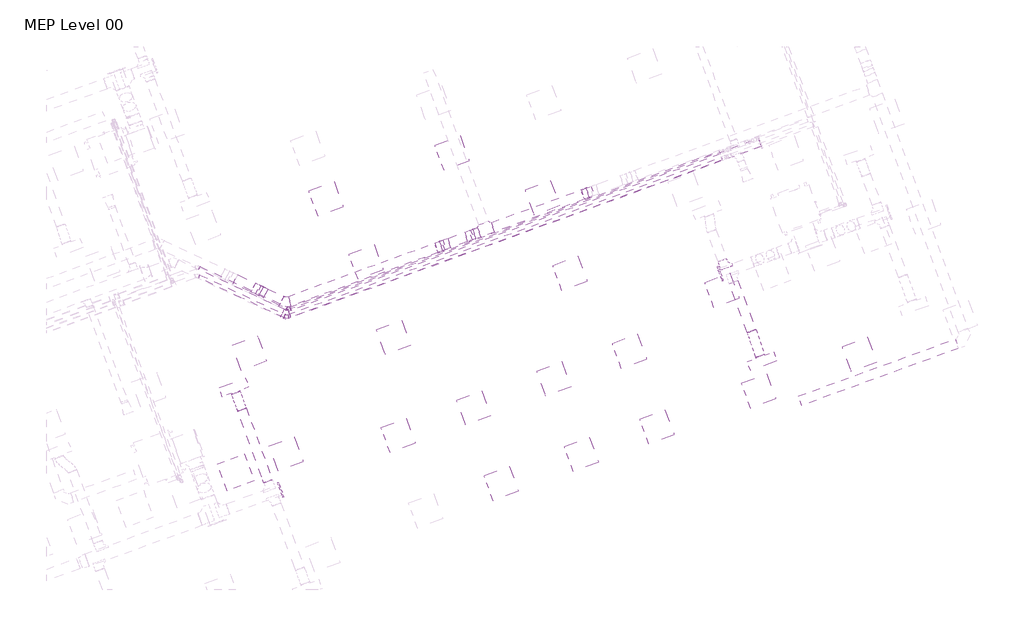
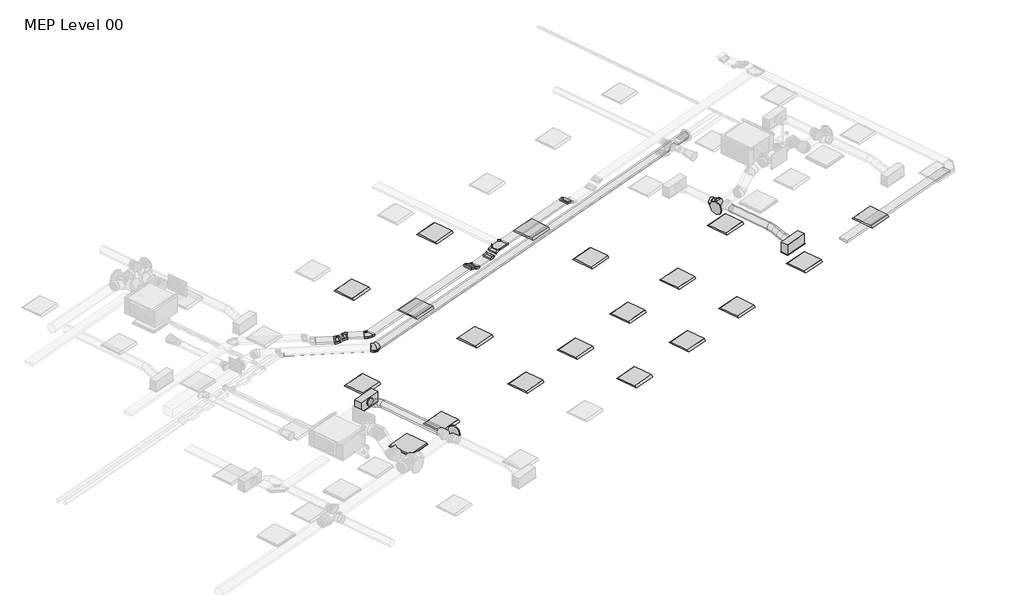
# One storey, part 27 of 33: 18 light fixtures, 10 cable carrier segments, 9 cable carrier fittings, 5 duct segments, 4 duct fittings, 4 pipe segments, 3 air terminals, 2 pipe fittings.
"""IFC4 building model written with IfcOpenShell, lengths in millimetres."""

from ifc_helpers import new_model, si_unit, point, frame, frame_2d, origin, place, context, project, spatial, polyline, circle_curve, ellipse_curve, trimmed, segment, composite_curve, outline, extrude, transform, mapped, element, save
from ifc_brep_helpers import plane_surface, cylinder_surface, advanced_brep
from components import return_grille_rectangular_hosted_standard_7b12617c, supply_diffuser_with_plenum_linear_slot_hosted_8c379eed, supply_diffuser_with_plenum_linear_slot_hosted_8e4f2f20, cable_tray_horizontal_bend_standard_ea848225, cable_tray_horizontal_tee_standard_d76b5e15, cable_tray_vertical_inside_bend_standard_9a66f55b, cable_tray_vertical_outside_bend_standard_4df2047e, dw144_round_blank_end_standard_e3d0b58b, dw144_round_blank_end_standard_9aa061e7, dw144_round_segmented_bend_slip_joint_standard_e64af1a0, dw144_round_shoe_branch_slip_joint_standard_559552f4, light_fixture_600x600_230_1c7c1157, light_fixture_600x600_230_b730b5ca, elbow_threaded_gmi_standard_79e06f2a

model = new_model("IFC4")

# Units and contexts
model_context = context("Model", 3, world=origin())
ifc_project = project(units=[si_unit("LENGTHUNIT", "METRE", prefix="MILLI")], contexts=[model_context])

# Site, building, storey
site = spatial("IfcSite", under=ifc_project)
building = spatial("IfcBuilding", under=site)
storey = spatial("IfcBuildingStorey", under=building, Name="MEP Level 00", Elevation=0.0)

# Air terminals
placement = place(None, origin())
return_grille_rectangular_hosted_standard_shape = return_grille_rectangular_hosted_standard_7b12617c(model_context)
element("IfcAirTerminal", 1, ObjectType="Return Grille - Rectangular - Hosted : Standard", at=placement, inside=storey, context=model_context, shape_type="MappedRepresentation", body=[
    mapped(return_grille_rectangular_hosted_standard_shape, transform((48062.9940494, 9235.5167351, 2800.0), x_axis=(0.939692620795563, 0.34202014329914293, 0.0), y_axis=(0.34202014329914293, -0.939692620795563, 0.0), z_axis=(0.0, 0.0, -1.0))),
])
supply_diffuser_with_plenum_linear_slot_hosted_shape = supply_diffuser_with_plenum_linear_slot_hosted_8c379eed(model_context)
element("IfcAirTerminal", 2, ObjectType="Supply Diffuser with Plenum - Linear Slot - Hosted : 600mmx193.8mm-200 In Inlet  4-Slot", at=placement, inside=storey, context=model_context, shape_type="MappedRepresentation", body=[
    mapped(supply_diffuser_with_plenum_linear_slot_hosted_shape, transform((59838.6553495, 11720.0135943, 2800.0), x_axis=(0.9396926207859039, 0.342020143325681, 0.0), y_axis=(0.342020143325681, -0.9396926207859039, 0.0), z_axis=(0.0, 0.0, -1.0))),
])
supply_diffuser_with_plenum_linear_slot_hosted_2_shape = supply_diffuser_with_plenum_linear_slot_hosted_8e4f2f20(model_context)
element("IfcAirTerminal", 3, ObjectType="Supply Diffuser with Plenum - Linear Slot - Hosted : 600mmx193.8mm-200 In Inlet  4-Slot", at=placement, inside=storey, context=model_context, shape_type="MappedRepresentation", body=[
    mapped(supply_diffuser_with_plenum_linear_slot_hosted_2_shape, transform((48022.1677671, 11136.1771739, 2800.0), x_axis=(0.939692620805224, 0.34202014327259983, 0.0), y_axis=(0.34202014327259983, -0.939692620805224, 0.0), z_axis=(0.0, 0.0, -1.0))),
])

# Cable carrier fittings
cable_tray_horizontal_bend_standard_shape = cable_tray_horizontal_bend_standard_ea848225(model_context)
element("IfcCableCarrierFitting", 4, ObjectType="Cable Tray Horizontal Bend : Standard", at=placement, inside=storey, context=model_context, shape_type="MappedRepresentation", body=[
    mapped(cable_tray_horizontal_bend_standard_shape, transform((49178.5883036, 13033.9843438, 3248.9627355), x_axis=(0.9063077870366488, -0.422618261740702, 0.0), y_axis=(0.422618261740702, 0.9063077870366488, 0.0), z_axis=(0.0, 0.0, 1.0))),
])
cable_tray_horizontal_tee_standard_shape = cable_tray_horizontal_tee_standard_d76b5e15(model_context)
element("IfcCableCarrierFitting", 5, ObjectType="Cable Tray Horizontal Tee : Standard", at=placement, inside=storey, context=model_context, shape_type="MappedRepresentation", body=[
    mapped(cable_tray_horizontal_tee_standard_shape, transform((53662.1916852, 14665.8825169, 3248.9627355), x_axis=(-0.9396926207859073, -0.3420201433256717, 0.0), y_axis=(0.3420201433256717, -0.9396926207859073, 0.0), z_axis=(0.0, 0.0, 1.0))),
])
cable_tray_vertical_inside_bend_standard_shape = cable_tray_vertical_inside_bend_standard_9a66f55b(model_context)
element("IfcCableCarrierFitting", 6, ObjectType="Cable Tray Vertical Inside Bend : Standard", at=placement, inside=storey, context=model_context, shape_type="MappedRepresentation", body=[
    mapped(cable_tray_vertical_inside_bend_standard_shape, transform((52776.5170732, 14343.5233209, 3148.9627355), x_axis=(-0.9396926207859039, -0.3420201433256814, 0.0), y_axis=(0.0, 0.0, 1.0000000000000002), z_axis=(-0.3420201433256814, 0.9396926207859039, 0.0))),
])
element("IfcCableCarrierFitting", 7, ObjectType="Cable Tray Vertical Inside Bend : Standard", at=placement, inside=storey, context=model_context, shape_type="MappedRepresentation", body=[
    mapped(cable_tray_vertical_inside_bend_standard_shape, transform((53283.7846283, 14528.1536118, 3148.9627355), x_axis=(-0.8137976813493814, -0.29619813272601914, -0.4999999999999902), y_axis=(-0.4698463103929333, -0.17101007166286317, 0.8660254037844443), z_axis=(-0.3420201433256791, 0.9396926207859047, 0.0))),
])
element("IfcCableCarrierFitting", 8, ObjectType="Cable Tray Vertical Inside Bend : Standard", at=placement, inside=storey, context=model_context, shape_type="MappedRepresentation", body=[
    mapped(cable_tray_vertical_inside_bend_standard_shape, transform((48516.9257607, 13342.5226547, 3148.9627355), x_axis=(0.9063077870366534, -0.42261826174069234, 0.0), y_axis=(0.0, 0.0, 1.0000000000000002), z_axis=(-0.42261826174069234, -0.9063077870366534, 0.0))),
])
cable_tray_vertical_outside_bend_standard_shape = cable_tray_vertical_outside_bend_standard_4df2047e(model_context)
element("IfcCableCarrierFitting", 9, ObjectType="Cable Tray Vertical Outside Bend : Standard", at=placement, inside=storey, context=model_context, shape_type="MappedRepresentation", body=[
    mapped(cable_tray_vertical_outside_bend_standard_shape, transform((55890.4383468, 15476.8979763, 3248.9627355), x_axis=(0.9396926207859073, 0.3420201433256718, 0.0), y_axis=(0.0, 0.0, -1.0000000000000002), z_axis=(-0.3420201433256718, 0.9396926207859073, 0.0))),
])
element("IfcCableCarrierFitting", 10, ObjectType="Cable Tray Vertical Outside Bend : Standard", at=placement, inside=storey, context=model_context, shape_type="MappedRepresentation", body=[
    mapped(cable_tray_vertical_outside_bend_standard_shape, transform((52613.757537, 14284.2836944, 3248.9627355), x_axis=(0.9396926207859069, 0.34202014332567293, 0.0), y_axis=(0.0, 0.0, -1.0), z_axis=(-0.34202014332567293, 0.9396926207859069, 0.0))),
])
element("IfcCableCarrierFitting", 11, ObjectType="Cable Tray Vertical Outside Bend : Standard", at=placement, inside=storey, context=model_context, shape_type="MappedRepresentation", body=[
    mapped(cable_tray_vertical_outside_bend_standard_shape, transform((53446.5441646, 14587.3932383, 3248.9627355), x_axis=(0.8137976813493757, 0.29619813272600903, 0.5000000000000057), y_axis=(0.4698463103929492, 0.17101007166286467, -0.8660254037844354), z_axis=(-0.34202014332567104, 0.9396926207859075, 0.0))),
])
element("IfcCableCarrierFitting", 12, ObjectType="Cable Tray Vertical Outside Bend : Standard", at=placement, inside=storey, context=model_context, shape_type="MappedRepresentation", body=[
    mapped(cable_tray_vertical_outside_bend_standard_shape, transform((48673.9028741, 13269.3230245, 3248.9627355), x_axis=(-0.9063077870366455, 0.42261826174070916, 0.0), y_axis=(0.0, 0.0, -1.0), z_axis=(-0.42261826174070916, -0.9063077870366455, 0.0))),
])

# Cable carrier segments
element("IfcCableCarrierSegment", 13, ObjectType="Perforated Cable Tray", at=placement, inside=storey, context=model_context, shape_type="SweptSolid", body=[
    extrude(outline(polyline([(53853.3690022, 14615.7453704), (53776.4144699, 14827.17621), (55789.0136109, 15559.7023909), (55865.9681432, 15348.2715512), (53853.3690022, 14615.7453704)])), frame((0.0, 0.0, 3223.9627355), z_axis=(0.0, 0.0, 1.0), x_axis=(1.0, 0.0, 0.0)), (0.0, 0.0, 1.0), 50.0),
])
element("IfcCableCarrierSegment", 14, ObjectType="Perforated Cable Tray", at=placement, inside=storey, context=model_context, shape_type="SweptSolid", body=[
    extrude(outline(polyline([(0.0, -225.0), (0.0, 0.0), (113.9508747, 0.0), (113.9508747, -225.0), (0.0, -225.0)])), frame((55894.7290307, 15598.179657, 3193.8184513), z_axis=(0.4698463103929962, 0.1710100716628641, 0.8660254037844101), x_axis=(0.8137976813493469, 0.29619813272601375, -0.5000000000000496)), (0.0, 0.0, 1.0), 50.0),
])
element("IfcCableCarrierSegment", 15, ObjectType="Perforated Cable Tray", at=placement, inside=storey, context=model_context, shape_type="SweptSolid", body=[
    extrude(outline(polyline([(48687.0694296, 13139.053343), (48782.1585385, 13342.9725951), (49136.974176, 13177.519346), (49041.8850671, 12973.600094), (48687.0694296, 13139.053343)])), frame((0.0, 0.0, 3223.9627355), z_axis=(0.0, 0.0, 1.0), x_axis=(1.0, 0.0, 0.0)), (0.0, 0.0, 1.0), 50.0),
])
element("IfcCableCarrierSegment", 16, ObjectType="Perforated Cable Tray", at=placement, inside=storey, context=model_context, shape_type="SweptSolid", body=[
    extrude(outline(polyline([(48010.1156409, 13454.7220789), (48105.2047498, 13658.6413309), (48503.7592052, 13472.7923362), (48408.6700963, 13268.8730841), (48010.1156409, 13454.7220789)])), frame((0.0, 0.0, 3123.9627355), z_axis=(0.0, 0.0, 1.0), x_axis=(1.0, 0.0, 0.0)), (0.0, 0.0, 1.0), 50.0),
])
element("IfcCableCarrierSegment", 17, ObjectType="Perforated Cable Tray", at=placement, inside=storey, context=model_context, shape_type="SweptSolid", body=[
    extrude(outline(polyline([(0.0, -225.0), (0.0, 0.0), (66.0254038, 0.0), (66.0254038, -225.0), (0.0, -225.0)])), frame((48585.1098035, 13186.5978974, 3193.8184513), z_axis=(-0.4531538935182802, 0.21130913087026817, 0.8660254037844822), x_axis=(-0.7848855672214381, 0.3659981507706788, -0.49999999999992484)), (0.0, 0.0, 1.0), 50.0),
])
element("IfcCableCarrierSegment", 18, ObjectType="Perforated Cable Tray", at=placement, inside=storey, context=model_context, shape_type="SweptSolid", body=[
    extrude(outline(polyline([(64157.7578179, 12218.7489992), (64234.7123502, 12007.3181595), (60729.218143, 10731.4226117), (60652.2636108, 10942.8534514), (64157.7578179, 12218.7489992)])), frame((0.0, 0.0, 3223.9627355), z_axis=(0.0, 0.0, 1.0), x_axis=(1.0, 0.0, 0.0)), (0.0, 0.0, 1.0), 50.0),
])
element("IfcCableCarrierSegment", 19, ObjectType="Perforated Cable Tray", at=placement, inside=storey, context=model_context, shape_type="SweptSolid", body=[
    extrude(outline(polyline([(49309.5085089, 12961.9154021), (49232.5539766, 13173.3462418), (52512.3328011, 14367.0881089), (52589.2873334, 14155.6572692), (49309.5085089, 12961.9154021)])), frame((0.0, 0.0, 3223.9627355), z_axis=(0.0, 0.0, 1.0), x_axis=(1.0, 0.0, 0.0)), (0.0, 0.0, 1.0), 50.0),
])
element("IfcCableCarrierSegment", 20, ObjectType="Perforated Cable Tray", at=placement, inside=storey, context=model_context, shape_type="SweptSolid", body=[
    extrude(outline(polyline([(1e-07, -224.9999999), (0.0, 0.0), (66.0254039, 0.0), (66.0254038, -225.0), (1e-07, -224.9999999)])), frame((52618.0482209, 14405.565375, 3193.8184513), z_axis=(0.46984631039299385, 0.17101007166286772, 0.8660254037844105), x_axis=(0.8137976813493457, 0.2961981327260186, -0.5000000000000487)), (0.0, 0.0, 1.0), 50.0),
])
element("IfcCableCarrierSegment", 21, ObjectType="Perforated Cable Tray", at=placement, inside=storey, context=model_context, shape_type="SweptSolid", body=[
    extrude(outline(polyline([(52877.9418091, 14260.7189064), (52800.9872768, 14472.149746), (53182.3598925, 14610.9580263), (53259.3144247, 14399.5271866), (52877.9418091, 14260.7189064)])), frame((0.0, 0.0, 3123.9627355), z_axis=(0.0, 0.0, 1.0), x_axis=(1.0, 0.0, 0.0)), (0.0, 0.0, 1.0), 50.0),
])
element("IfcCableCarrierSegment", 22, ObjectType="Perforated Cable Tray", at=placement, inside=storey, context=model_context, shape_type="SweptSolid", body=[
    extrude(outline(polyline([(0.0, -225.0), (0.0, 0.0), (66.0254038, 0.0), (66.0254038, -225.0), (0.0, -225.0)])), frame((53311.5676278, 14657.985796, 3160.8057494), z_axis=(-0.46984631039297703, -0.17101007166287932, 0.8660254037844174), x_axis=(0.8137976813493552, 0.2961981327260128, 0.5000000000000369)), (0.0, 0.0, 1.0), 50.0),
])

# Duct fittings
dw144_round_blank_end_standard_shape = dw144_round_blank_end_standard_e3d0b58b(model_context)
element("IfcDuctFitting", 23, ObjectType="DW144 Round Blank End : Standard", at=placement, inside=storey, context=model_context, shape_type="MappedRepresentation", body=[
    mapped(dw144_round_blank_end_standard_shape, transform((58910.1934303, 13684.7593256, 3072.2088531), x_axis=(-0.9396926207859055, -0.3420201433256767, 0.0), y_axis=(0.3420201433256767, -0.9396926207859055, 0.0), z_axis=(0.0, 0.0, 1.0))),
])
dw144_round_blank_end_standard_2_shape = dw144_round_blank_end_standard_9aa061e7(model_context)
element("IfcDuctFitting", 24, ObjectType="DW144 Round Blank End : Standard", at=placement, inside=storey, context=model_context, shape_type="MappedRepresentation", body=[
    mapped(dw144_round_blank_end_standard_2_shape, transform((49058.6014923, 8836.976268, 3072.2088531), x_axis=(0.9396926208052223, 0.3420201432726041, 0.0), y_axis=(-0.3420201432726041, 0.9396926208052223, 0.0), z_axis=(0.0, 0.0, 1.0))),
])
dw144_round_segmented_bend_slip_joint_standard_shape = dw144_round_segmented_bend_slip_joint_standard_e64af1a0(model_context)
element("IfcDuctFitting", 25, ObjectType="DW144 Round Segmented Bend - Slip Joint : Standard", at=placement, inside=storey, context=model_context, shape_type="MappedRepresentation", body=[
    mapped(dw144_round_segmented_bend_slip_joint_standard_shape, transform((49186.9042916, 12762.9479037, 3050.0), x_axis=(0.9063077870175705, -0.42261826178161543, 0.0), y_axis=(0.42261826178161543, 0.9063077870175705, 0.0), z_axis=(0.0, 0.0, 1.0))),
])
dw144_round_shoe_branch_slip_joint_standard_shape = dw144_round_shoe_branch_slip_joint_standard_559552f4(model_context)
element("IfcDuctFitting", 26, ObjectType="DW144 Round Shoe Branch - Slip Joint : Standard", at=placement, inside=storey, context=model_context, shape_type="MappedRepresentation", body=[
    mapped(dw144_round_shoe_branch_slip_joint_standard_shape, transform((58998.2785619, 13849.8419132, 3072.2088531), x_axis=(-0.3420201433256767, 0.9396926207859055, 0.0), y_axis=(0.9396926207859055, 0.3420201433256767, 0.0), z_axis=(0.0, 0.0, -1.0))),
])

# Duct segments
element("IfcDuctSegment", 27, ObjectType="DW144 Segmented Bend / Shoe Branch", at=placement, inside=storey, context=model_context, shape_type="SweptSolid", body=[
    extrude(outline(composite_curve([segment(trimmed(circle_curve(frame_2d((0.0, 100.0)), 100.0), [point((100.0, 100.0))], [point((0.0, 0.0))], False, "CARTESIAN"), True, "CONTINUOUS"), segment(trimmed(circle_curve(frame_2d((0.0, 100.0)), 100.0), [point((0.0, 0.0))], [point((-100.0, 100.0))], False, "CARTESIAN"), True, "CONTINUOUS"), segment(trimmed(circle_curve(frame_2d((0.0, 100.0)), 100.0), [point((-100.0, 100.0))], [point((0.0, 200.0))], False, "CARTESIAN"), True, "CONTINUOUS"), segment(trimmed(circle_curve(frame_2d((0.0, 100.0)), 100.0), [point((0.0, 200.0))], [point((100.0, 100.0))], False, "CARTESIAN"), True, "CONTINUOUS")], self_intersect=False)), frame((48788.3008695, 9031.2437744, 3172.2088531), z_axis=(-0.34202014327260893, 0.9396926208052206, 0.0), x_axis=(0.9396926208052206, 0.34202014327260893, 0.0)), (0.0, 0.0, 1.0), 1708.325155),
])
element("IfcDuctSegment", 28, ObjectType="DW144 Segmented Bend / Shoe Branch", at=placement, inside=storey, context=model_context, shape_type="SweptSolid", body=[
    extrude(outline(composite_curve([segment(trimmed(circle_curve(frame_2d((0.0, -100.0)), 100.0), [point((-100.0, -100.0))], [point((0.0, 0.0))], False, "CARTESIAN"), True, "CONTINUOUS"), segment(trimmed(circle_curve(frame_2d((0.0, -100.0)), 100.0), [point((0.0, 0.0))], [point((100.0, -100.0))], False, "CARTESIAN"), True, "CONTINUOUS"), segment(trimmed(circle_curve(frame_2d((0.0, -100.0)), 100.0), [point((100.0, -100.0))], [point((0.0, -200.0))], False, "CARTESIAN"), True, "CONTINUOUS"), segment(trimmed(circle_curve(frame_2d((0.0, -100.0)), 100.0), [point((0.0, -200.0))], [point((-100.0, -100.0))], False, "CARTESIAN"), True, "CONTINUOUS")], self_intersect=False)), frame((59604.382353, 12397.8818724, 2972.2088531), z_axis=(-0.3420201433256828, 0.9396926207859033, 0.0), x_axis=(0.9396926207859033, 0.3420201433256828, 0.0)), (0.0, 0.0, 1.0), 1171.6958415),
])
element("IfcDuctSegment", 29, ObjectType="DW144 Segmented Bend / Shoe Branch", at=placement, inside=storey, context=model_context, shape_type="SweptSolid", body=[
    extrude(outline(composite_curve([segment(trimmed(circle_curve(frame_2d((0.0, 100.0)), 100.0), [point((100.0, 100.0))], [point((0.0, 0.0))], False, "CARTESIAN"), True, "CONTINUOUS"), segment(trimmed(circle_curve(frame_2d((0.0, 100.0)), 100.0), [point((0.0, 0.0))], [point((-100.0, 100.0))], False, "CARTESIAN"), True, "CONTINUOUS"), segment(trimmed(circle_curve(frame_2d((0.0, 100.0)), 100.0), [point((-100.0, 100.0))], [point((0.0, 200.0))], False, "CARTESIAN"), True, "CONTINUOUS"), segment(trimmed(circle_curve(frame_2d((0.0, 100.0)), 100.0), [point((0.0, 200.0))], [point((100.0, 100.0))], False, "CARTESIAN"), True, "CONTINUOUS")], self_intersect=False)), frame((49264.7509772, 12791.2817801, 3150.0), z_axis=(0.9396926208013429, 0.3420201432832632, 0.0), x_axis=(0.3420201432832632, -0.9396926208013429, 0.0)), (0.0, 0.0, 1.0), 11193.8317045),
])
element("IfcDuctSegment", 30, ObjectType="Flex - Round", at=placement, inside=storey, context=model_context, shape_type="AdvancedBrep", body=[
    advanced_brep(
    [(48110.0499932, 10602.3423021, 3072.2088531), (48204.0192553, 10636.5443165, 2972.2088531), (48297.9885173, 10670.7463308, 3072.2088531), (48204.0192553, 10636.5443165, 3172.2088531), (48103.9919744, 10618.9865719, 3072.2088531), (48201.6404342, 10643.0800736, 2972.2088531), (48291.9304986, 10687.3906005, 3072.2088531), (48194.2820388, 10663.2970987, 3172.2088531), (47972.2849015, 10980.8487807, 2954.4), (48066.2541636, 11015.050795, 3054.4), (48160.2234257, 11049.2528094, 2954.4), (48066.2541636, 11015.050795, 2854.4), (48075.0676443, 10698.4555156, 3053.8012198), (48179.2184784, 10704.683891, 2957.9393734), (48263.0061685, 10766.8595443, 3053.8012198), (48158.8553345, 10760.6311689, 3149.6630662), (48041.1674474, 10791.5955414, 3013.3044266), (48148.0726784, 10790.2562731, 2920.7329518), (48229.1059715, 10859.9995701, 3013.3044266), (48122.2007405, 10861.3388384, 3105.8759013), (48007.2672504, 10884.7355672, 2972.8076333), (48111.4180844, 10890.9639426, 2876.9457869), (48195.2057745, 10953.1395958, 2972.8076333), (48091.0549405, 10946.9112205, 3068.6694797), (47978.3429203, 10964.204511, 2954.4), (48075.99138, 10988.2980127, 2854.4), (48166.2814444, 11032.6085396, 2954.4), (48068.6329847, 11008.5150379, 3054.4)],
    [
        (0, 1, circle_curve(frame((48204.0192553, 10636.5443165, 3072.2088531), z_axis=(0.3420201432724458, -0.93969262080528, 0.0), x_axis=(-0.93969262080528, -0.3420201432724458, 0.0)), 100.0)),
        (1, 2, circle_curve(frame((48204.0192553, 10636.5443165, 3072.2088531), z_axis=(0.3420201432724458, -0.93969262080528, 0.0), x_axis=(-0.93969262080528, -0.3420201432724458, 0.0)), 100.0)),
        (2, 3, circle_curve(frame((48204.0192553, 10636.5443165, 3072.2088531), z_axis=(0.3420201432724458, -0.93969262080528, 0.0), x_axis=(-0.93969262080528, -0.3420201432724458, 0.0)), 100.0)),
        (3, 0, circle_curve(frame((48204.0192553, 10636.5443165, 3072.2088531), z_axis=(0.3420201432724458, -0.93969262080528, 0.0), x_axis=(-0.93969262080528, -0.3420201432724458, 0.0)), 100.0)),
        (0, 4),
        (4, 5, ellipse_curve(frame((48197.9612365, 10653.1885862, 3072.2088531), z_axis=(0.34005825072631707, -0.9343023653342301, 0.10695548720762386), x_axis=(0.03658093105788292, -0.100505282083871, -0.994263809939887)), 100.5769284, 100.0)),
        (5, 1),
        (5, 6, ellipse_curve(frame((48197.9612365, 10653.1885862, 3072.2088531), z_axis=(0.34005825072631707, -0.9343023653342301, 0.10695548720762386), x_axis=(0.03658093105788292, -0.100505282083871, -0.994263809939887)), 100.5769284, 100.0)),
        (6, 2),
        (6, 7, ellipse_curve(frame((48197.9612365, 10653.1885862, 3072.2088531), z_axis=(0.34005825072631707, -0.9343023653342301, 0.10695548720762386), x_axis=(0.03658093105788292, -0.100505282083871, -0.994263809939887)), 100.5769284, 100.0)),
        (7, 3),
        (7, 4, ellipse_curve(frame((48197.9612365, 10653.1885862, 3072.2088531), z_axis=(0.34005825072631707, -0.9343023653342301, 0.10695548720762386), x_axis=(0.03658093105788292, -0.100505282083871, -0.994263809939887)), 100.5769284, 100.0)),
        (8, 9, circle_curve(frame((48066.2541636, 11015.050795, 2954.4), z_axis=(-0.34202014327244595, 0.93969262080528, 0.0), x_axis=(-0.9396926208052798, -0.3420201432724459, 0.0)), 100.0)),
        (9, 10, circle_curve(frame((48066.2541636, 11015.050795, 2954.4), z_axis=(-0.34202014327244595, 0.93969262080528, 0.0), x_axis=(-0.9396926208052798, -0.3420201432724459, 0.0)), 100.0)),
        (10, 11, circle_curve(frame((48066.2541636, 11015.050795, 2954.4), z_axis=(-0.34202014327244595, 0.93969262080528, 0.0), x_axis=(-0.9396926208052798, -0.3420201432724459, 0.0)), 100.0)),
        (11, 8, circle_curve(frame((48066.2541636, 11015.050795, 2954.4), z_axis=(-0.34202014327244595, 0.93969262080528, 0.0), x_axis=(-0.9396926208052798, -0.3420201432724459, 0.0)), 100.0)),
        (4, 12),
        (12, 13, ellipse_curve(frame((48169.0369064, 10732.65753, 3053.8012198), z_axis=(0.32663313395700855, -0.8974171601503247, 0.2965691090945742), x_axis=(0.10143260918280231, -0.2786838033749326, -0.9550113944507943)), 100.3776991, 100.0)),
        (13, 5),
        (13, 14, ellipse_curve(frame((48169.0369064, 10732.65753, 3053.8012198), z_axis=(0.32663313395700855, -0.8974171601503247, 0.2965691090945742), x_axis=(0.10143260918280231, -0.2786838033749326, -0.9550113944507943)), 100.3776991, 100.0)),
        (14, 6),
        (14, 15, ellipse_curve(frame((48169.0369064, 10732.65753, 3053.8012198), z_axis=(0.32663313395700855, -0.8974171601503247, 0.2965691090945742), x_axis=(0.10143260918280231, -0.2786838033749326, -0.9550113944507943)), 100.3776991, 100.0)),
        (15, 7),
        (15, 12, ellipse_curve(frame((48169.0369064, 10732.65753, 3053.8012198), z_axis=(0.32663313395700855, -0.8974171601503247, 0.2965691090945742), x_axis=(0.10143260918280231, -0.2786838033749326, -0.9550113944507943)), 100.3776991, 100.0)),
        (12, 16),
        (16, 17, circle_curve(frame((48135.1367094, 10825.7975557, 3013.3044266), z_axis=(0.3166130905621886, -0.8698873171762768, 0.3782224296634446), x_axis=(-0.939692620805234, -0.3420201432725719, 0.0)), 100.0)),
        (17, 13),
        (17, 18, circle_curve(frame((48135.1367094, 10825.7975557, 3013.3044266), z_axis=(0.3166130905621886, -0.8698873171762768, 0.3782224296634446), x_axis=(-0.939692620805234, -0.3420201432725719, 0.0)), 100.0)),
        (18, 14),
        (18, 19, circle_curve(frame((48135.1367094, 10825.7975557, 3013.3044266), z_axis=(0.3166130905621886, -0.8698873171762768, 0.3782224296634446), x_axis=(-0.939692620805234, -0.3420201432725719, 0.0)), 100.0)),
        (19, 15),
        (19, 16, circle_curve(frame((48135.1367094, 10825.7975557, 3013.3044266), z_axis=(0.3166130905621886, -0.8698873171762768, 0.3782224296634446), x_axis=(-0.939692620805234, -0.3420201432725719, 0.0)), 100.0)),
        (16, 20),
        (20, 21, ellipse_curve(frame((48101.2365124, 10918.9375815, 2972.8076333), z_axis=(0.3266331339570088, -0.8974171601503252, 0.2965691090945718), x_axis=(-0.10143260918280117, 0.2786838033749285, 0.9550113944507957)), 100.3776991, 100.0)),
        (21, 17),
        (21, 22, ellipse_curve(frame((48101.2365124, 10918.9375815, 2972.8076333), z_axis=(0.3266331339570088, -0.8974171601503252, 0.2965691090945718), x_axis=(-0.10143260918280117, 0.2786838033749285, 0.9550113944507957)), 100.3776991, 100.0)),
        (22, 18),
        (22, 23, ellipse_curve(frame((48101.2365124, 10918.9375815, 2972.8076333), z_axis=(0.3266331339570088, -0.8974171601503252, 0.2965691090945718), x_axis=(-0.10143260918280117, 0.2786838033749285, 0.9550113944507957)), 100.3776991, 100.0)),
        (23, 19),
        (23, 20, ellipse_curve(frame((48101.2365124, 10918.9375815, 2972.8076333), z_axis=(0.3266331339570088, -0.8974171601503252, 0.2965691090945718), x_axis=(-0.10143260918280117, 0.2786838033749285, 0.9550113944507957)), 100.3776991, 100.0)),
        (20, 24),
        (24, 25, ellipse_curve(frame((48072.3121824, 10998.4065253, 2954.4), z_axis=(0.3400582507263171, -0.9343023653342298, 0.10695548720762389), x_axis=(-0.036580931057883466, 0.10050528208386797, 0.9942638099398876)), 100.5769284, 100.0)),
        (25, 21),
        (25, 26, ellipse_curve(frame((48072.3121824, 10998.4065253, 2954.4), z_axis=(0.3400582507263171, -0.9343023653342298, 0.10695548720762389), x_axis=(-0.036580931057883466, 0.10050528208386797, 0.9942638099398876)), 100.5769284, 100.0)),
        (26, 22),
        (26, 27, ellipse_curve(frame((48072.3121824, 10998.4065253, 2954.4), z_axis=(0.3400582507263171, -0.9343023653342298, 0.10695548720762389), x_axis=(-0.036580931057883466, 0.10050528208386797, 0.9942638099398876)), 100.5769284, 100.0)),
        (27, 23),
        (27, 24, ellipse_curve(frame((48072.3121824, 10998.4065253, 2954.4), z_axis=(0.3400582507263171, -0.9343023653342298, 0.10695548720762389), x_axis=(-0.036580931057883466, 0.10050528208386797, 0.9942638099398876)), 100.5769284, 100.0)),
        (24, 8),
        (11, 25),
        (10, 26),
        (9, 27),
    ],
    [
        plane_surface(frame((48204.0192553, 10636.5443165, 3172.2088531), z_axis=(0.34202014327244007, -0.939692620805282, 0.0), x_axis=(0.939692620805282, 0.34202014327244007, 0.0))),
        cylinder_surface(frame((48204.0192553, 10636.5443165, 3072.2088531), z_axis=(0.3420201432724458, -0.93969262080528, 0.0), x_axis=(-0.93969262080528, -0.3420201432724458, 0.0)), 100.0),
        plane_surface(frame((48066.2541636, 11015.050795, 3054.4), z_axis=(-0.34202014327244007, 0.939692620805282, 0.0), x_axis=(0.939692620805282, 0.34202014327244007, 0.0))),
        cylinder_surface(frame((48197.9612365, 10653.1885862, 3072.2088531), z_axis=(0.33419508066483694, -0.9181934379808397, 0.21268394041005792), x_axis=(-0.93969262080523, -0.3420201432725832, 0.0)), 100.0),
        cylinder_surface(frame((48169.0369064, 10732.65753, 3053.8012198), z_axis=(0.31661309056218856, -0.8698873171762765, 0.3782224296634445), x_axis=(-0.939692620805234, -0.3420201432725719, 0.0)), 100.0),
        cylinder_surface(frame((48135.1367094, 10825.7975557, 3013.3044266), z_axis=(0.31661309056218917, -0.8698873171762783, 0.37822242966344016), x_axis=(-0.9396926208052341, -0.3420201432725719, 0.0)), 100.0),
        cylinder_surface(frame((48101.2365124, 10918.9375815, 2972.8076333), z_axis=(0.334195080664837, -0.9181934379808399, 0.21268394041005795), x_axis=(-0.93969262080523, -0.3420201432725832, 0.0)), 100.0),
        cylinder_surface(frame((48072.3121824, 10998.4065253, 2954.4), z_axis=(0.3420201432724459, -0.9396926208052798, 0.0), x_axis=(-0.9396926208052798, -0.3420201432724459, 0.0)), 100.0),
    ],
    [
        (0, [[1, 2, 3, 4]]),
        (1, [[-1, 5, 6, 7]]),
        (1, [[-2, -7, 8, 9]]),
        (1, [[-3, -9, 10, 11]]),
        (1, [[-4, -11, 12, -5]]),
        (2, [[13, 14, 15, 16]]),
        (3, [[-6, 17, 18, 19]]),
        (3, [[-8, -19, 20, 21]]),
        (3, [[-10, -21, 22, 23]]),
        (3, [[-12, -23, 24, -17]]),
        (4, [[-18, 25, 26, 27]]),
        (4, [[-20, -27, 28, 29]]),
        (4, [[-22, -29, 30, 31]]),
        (4, [[-24, -31, 32, -25]]),
        (5, [[-26, 33, 34, 35]]),
        (5, [[-28, -35, 36, 37]]),
        (5, [[-30, -37, 38, 39]]),
        (5, [[-32, -39, 40, -33]]),
        (6, [[-34, 41, 42, 43]]),
        (6, [[-36, -43, 44, 45]]),
        (6, [[-38, -45, 46, 47]]),
        (6, [[-40, -47, 48, -41]]),
        (7, [[-42, 49, -16, 50]]),
        (7, [[-44, -50, -15, 51]]),
        (7, [[-46, -51, -14, 52]]),
        (7, [[-48, -52, -13, -49]]),
    ],
),
])
element("IfcDuctSegment", 31, ObjectType="Flex - Round", at=placement, inside=storey, context=model_context, shape_type="AdvancedBrep", body=[
    advanced_brep(
    [(59698.3516151, 12432.0838867, 3072.2088531), (59604.382353, 12397.8818724, 2972.2088531), (59510.4130909, 12363.6798581, 3072.2088531), (59604.382353, 12397.8818724, 3172.2088531), (59702.7973117, 12419.8694356, 3072.2088531), (59606.2920858, 12392.6349247, 2972.2088531), (59514.400583, 12352.7243137, 3072.2088531), (59610.9058089, 12379.9588246, 3172.2088531), (59888.5382151, 11875.3419875, 2954.4), (59794.5689531, 11841.1399731, 3054.4), (59700.599691, 11806.9379588, 2954.4), (59794.5689531, 11841.1399731, 2854.4), (59747.9755246, 12290.3457621, 3053.6205079), (59646.608591, 12277.0495237, 2955.6208327), (59558.7003698, 12225.7190439, 3053.9819318), (59660.0673034, 12239.0152823, 3151.981607), (59794.3190603, 12151.206309, 3012.94305), (59690.6737688, 12144.7504952, 2916.9431749), (59604.6322458, 12087.8155366, 3013.6658031), (59708.2775373, 12094.2713503, 3109.6656782), (59840.2509363, 12013.3028017, 2972.6269213), (59738.8840026, 12000.0065632, 2874.6272462), (59650.9757814, 11948.6760834, 2972.9883453), (59752.3427151, 11961.9723218, 3070.9880204), (59884.5507231, 11886.2975319, 2954.4), (59788.0454971, 11859.063021, 2854.4), (59696.1539943, 11819.15241, 2954.4), (59792.6592203, 11846.3869208, 3054.4)],
    [
        (0, 1, circle_curve(frame((59604.382353, 12397.8818724, 3072.2088531), z_axis=(-0.34202014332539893, 0.9396926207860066, 0.0), x_axis=(0.9396926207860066, 0.34202014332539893, 0.0)), 100.0)),
        (1, 2, circle_curve(frame((59604.382353, 12397.8818724, 3072.2088531), z_axis=(-0.34202014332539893, 0.9396926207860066, 0.0), x_axis=(0.9396926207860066, 0.34202014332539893, 0.0)), 100.0)),
        (2, 3, circle_curve(frame((59604.382353, 12397.8818724, 3072.2088531), z_axis=(-0.34202014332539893, 0.9396926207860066, 0.0), x_axis=(0.9396926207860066, 0.34202014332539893, 0.0)), 100.0)),
        (3, 0, circle_curve(frame((59604.382353, 12397.8818724, 3072.2088531), z_axis=(-0.34202014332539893, 0.9396926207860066, 0.0), x_axis=(0.9396926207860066, 0.34202014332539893, 0.0)), 100.0)),
        (0, 4),
        (4, 5, ellipse_curve(frame((59608.5989473, 12386.2968746, 3072.2088531), z_axis=(-0.33495707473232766, 0.9398272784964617, 0.06729371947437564), x_axis=(-0.11578366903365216, 0.029822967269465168, -0.9928266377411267)), 100.2294427, 100.0)),
        (5, 1),
        (5, 6, ellipse_curve(frame((59608.5989473, 12386.2968746, 3072.2088531), z_axis=(-0.33495707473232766, 0.9398272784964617, 0.06729371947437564), x_axis=(-0.11578366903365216, 0.029822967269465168, -0.9928266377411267)), 100.2294427, 100.0)),
        (6, 2),
        (6, 7, ellipse_curve(frame((59608.5989473, 12386.2968746, 3072.2088531), z_axis=(-0.33495707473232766, 0.9398272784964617, 0.06729371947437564), x_axis=(-0.11578366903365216, 0.029822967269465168, -0.9928266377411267)), 100.2294427, 100.0)),
        (7, 3),
        (7, 4, ellipse_curve(frame((59608.5989473, 12386.2968746, 3072.2088531), z_axis=(-0.33495707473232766, 0.9398272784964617, 0.06729371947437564), x_axis=(-0.11578366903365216, 0.029822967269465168, -0.9928266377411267)), 100.2294427, 100.0)),
        (8, 9, circle_curve(frame((59794.5689531, 11841.1399731, 2954.4), z_axis=(0.3420201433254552, -0.9396926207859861, 0.0), x_axis=(0.9396926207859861, 0.3420201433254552, 0.0)), 100.0)),
        (9, 10, circle_curve(frame((59794.5689531, 11841.1399731, 2954.4), z_axis=(0.3420201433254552, -0.9396926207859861, 0.0), x_axis=(0.9396926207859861, 0.3420201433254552, 0.0)), 100.0)),
        (10, 11, circle_curve(frame((59794.5689531, 11841.1399731, 2954.4), z_axis=(0.3420201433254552, -0.9396926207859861, 0.0), x_axis=(0.9396926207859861, 0.3420201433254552, 0.0)), 100.0)),
        (11, 8, circle_curve(frame((59794.5689531, 11841.1399731, 2954.4), z_axis=(0.3420201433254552, -0.9396926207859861, 0.0), x_axis=(0.9396926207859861, 0.3420201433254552, 0.0)), 100.0)),
        (4, 12),
        (12, 13, ellipse_curve(frame((59653.3379472, 12258.032403, 3053.8012198), z_axis=(-0.3161714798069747, 0.9271110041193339, 0.20124805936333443), x_axis=(-0.16011775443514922, 0.15693918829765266, -0.9745421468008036)), 100.2336292, 100.0)),
        (13, 5),
        (13, 14, ellipse_curve(frame((59653.3379472, 12258.032403, 3053.8012198), z_axis=(-0.3161714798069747, 0.9271110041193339, 0.20124805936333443), x_axis=(-0.16011775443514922, 0.15693918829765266, -0.9745421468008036)), 100.2336292, 100.0)),
        (14, 6),
        (14, 15, ellipse_curve(frame((59653.3379472, 12258.032403, 3053.8012198), z_axis=(-0.3161714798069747, 0.9271110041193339, 0.20124805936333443), x_axis=(-0.16011775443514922, 0.15693918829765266, -0.9745421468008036)), 100.2336292, 100.0)),
        (15, 7),
        (15, 12, ellipse_curve(frame((59653.3379472, 12258.032403, 3053.8012198), z_axis=(-0.3161714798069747, 0.9271110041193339, 0.20124805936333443), x_axis=(-0.16011775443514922, 0.15693918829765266, -0.9745421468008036)), 100.2336292, 100.0)),
        (12, 16),
        (16, 17, circle_curve(frame((59699.475653, 12119.5109228, 3013.3044266), z_axis=(-0.3045086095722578, 0.9142410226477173, 0.26727861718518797), x_axis=(0.948434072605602, 0.3169538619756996, -0.0036137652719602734)), 100.0)),
        (17, 13),
        (17, 18, circle_curve(frame((59699.475653, 12119.5109228, 3013.3044266), z_axis=(-0.3045086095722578, 0.9142410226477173, 0.26727861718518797), x_axis=(0.948434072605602, 0.3169538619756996, -0.0036137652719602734)), 100.0)),
        (18, 14),
        (18, 19, circle_curve(frame((59699.475653, 12119.5109228, 3013.3044266), z_axis=(-0.3045086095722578, 0.9142410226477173, 0.26727861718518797), x_axis=(0.948434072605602, 0.3169538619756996, -0.0036137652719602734)), 100.0)),
        (19, 15),
        (19, 16, circle_curve(frame((59699.475653, 12119.5109228, 3013.3044266), z_axis=(-0.3045086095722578, 0.9142410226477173, 0.26727861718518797), x_axis=(0.948434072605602, 0.3169538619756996, -0.0036137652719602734)), 100.0)),
        (16, 20),
        (20, 21, ellipse_curve(frame((59745.6133588, 11980.9894425, 2972.8076333), z_axis=(-0.3161714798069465, 0.9271110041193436, 0.2012480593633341), x_axis=(0.16011775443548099, -0.1569391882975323, 0.9745421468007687)), 100.2336292, 100.0)),
        (21, 17),
        (21, 22, ellipse_curve(frame((59745.6133588, 11980.9894425, 2972.8076333), z_axis=(-0.3161714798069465, 0.9271110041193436, 0.2012480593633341), x_axis=(0.16011775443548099, -0.1569391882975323, 0.9745421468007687)), 100.2336292, 100.0)),
        (22, 18),
        (22, 23, ellipse_curve(frame((59745.6133588, 11980.9894425, 2972.8076333), z_axis=(-0.3161714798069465, 0.9271110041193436, 0.2012480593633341), x_axis=(0.16011775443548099, -0.1569391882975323, 0.9745421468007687)), 100.2336292, 100.0)),
        (23, 19),
        (23, 20, ellipse_curve(frame((59745.6133588, 11980.9894425, 2972.8076333), z_axis=(-0.3161714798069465, 0.9271110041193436, 0.2012480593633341), x_axis=(0.16011775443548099, -0.1569391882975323, 0.9745421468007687)), 100.2336292, 100.0)),
        (20, 24),
        (24, 25, ellipse_curve(frame((59790.3523587, 11852.7249709, 2954.4), z_axis=(-0.33495707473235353, 0.9398272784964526, 0.0672937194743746), x_axis=(0.11578366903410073, -0.02982296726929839, 0.9928266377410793)), 100.2294427, 100.0)),
        (25, 21),
        (25, 26, ellipse_curve(frame((59790.3523587, 11852.7249709, 2954.4), z_axis=(-0.33495707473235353, 0.9398272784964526, 0.0672937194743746), x_axis=(0.11578366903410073, -0.02982296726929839, 0.9928266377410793)), 100.2294427, 100.0)),
        (26, 22),
        (26, 27, ellipse_curve(frame((59790.3523587, 11852.7249709, 2954.4), z_axis=(-0.33495707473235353, 0.9398272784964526, 0.0672937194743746), x_axis=(0.11578366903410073, -0.02982296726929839, 0.9928266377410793)), 100.2294427, 100.0)),
        (27, 23),
        (27, 24, ellipse_curve(frame((59790.3523587, 11852.7249709, 2954.4), z_axis=(-0.33495707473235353, 0.9398272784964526, 0.0672937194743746), x_axis=(0.11578366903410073, -0.02982296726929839, 0.9928266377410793)), 100.2294427, 100.0)),
        (24, 8),
        (11, 25),
        (10, 26),
        (9, 27),
    ],
    [
        plane_surface(frame((59604.382353, 12397.8818724, 2972.2088531), z_axis=(-0.34202014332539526, 0.9396926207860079, 0.0), x_axis=(0.9396926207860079, 0.34202014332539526, 0.0))),
        cylinder_surface(frame((59604.382353, 12397.8818724, 3072.2088531), z_axis=(-0.34202014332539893, 0.9396926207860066, 0.0), x_axis=(0.9396926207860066, 0.34202014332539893, 0.0)), 100.0),
        plane_surface(frame((59794.5689531, 11841.1399731, 2854.4), z_axis=(0.34202014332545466, -0.9396926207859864, 0.0), x_axis=(0.9396926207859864, 0.34202014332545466, 0.0))),
        cylinder_surface(frame((59608.5989473, 12386.2968746, 3072.2088531), z_axis=(-0.32636045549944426, 0.9356590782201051, 0.13427934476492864), x_axis=(0.9441697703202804, 0.32945809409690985, -0.0008994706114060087)), 100.0),
        cylinder_surface(frame((59653.3379472, 12258.032403, 3053.8012198), z_axis=(-0.3045086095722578, 0.9142410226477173, 0.26727861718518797), x_axis=(0.948434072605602, 0.3169538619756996, -0.0036137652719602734)), 100.0),
        cylinder_surface(frame((59699.475653, 12119.5109228, 3013.3044266), z_axis=(-0.3045086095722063, 0.9142410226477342, 0.2672786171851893), x_axis=(0.9484340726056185, 0.31695386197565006, -0.0036137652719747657)), 100.0),
        cylinder_surface(frame((59745.6133588, 11980.9894425, 2972.8076333), z_axis=(-0.3263604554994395, 0.9356590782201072, 0.1342793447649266), x_axis=(0.9441697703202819, 0.32945809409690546, -0.000899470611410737)), 100.0),
        cylinder_surface(frame((59790.3523587, 11852.7249709, 2954.4), z_axis=(-0.3420201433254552, 0.9396926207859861, 0.0), x_axis=(0.9396926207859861, 0.3420201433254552, 0.0)), 100.0),
    ],
    [
        (0, [[1, 2, 3, 4]]),
        (1, [[-1, 5, 6, 7]]),
        (1, [[-2, -7, 8, 9]]),
        (1, [[-3, -9, 10, 11]]),
        (1, [[-4, -11, 12, -5]]),
        (2, [[13, 14, 15, 16]]),
        (3, [[-6, 17, 18, 19]]),
        (3, [[-8, -19, 20, 21]]),
        (3, [[-10, -21, 22, 23]]),
        (3, [[-12, -23, 24, -17]]),
        (4, [[-18, 25, 26, 27]]),
        (4, [[-20, -27, 28, 29]]),
        (4, [[-22, -29, 30, 31]]),
        (4, [[-24, -31, 32, -25]]),
        (5, [[-26, 33, 34, 35]]),
        (5, [[-28, -35, 36, 37]]),
        (5, [[-30, -37, 38, 39]]),
        (5, [[-32, -39, 40, -33]]),
        (6, [[-34, 41, 42, 43]]),
        (6, [[-36, -43, 44, 45]]),
        (6, [[-38, -45, 46, 47]]),
        (6, [[-40, -47, 48, -41]]),
        (7, [[-42, 49, -16, 50]]),
        (7, [[-44, -50, -15, 51]]),
        (7, [[-46, -51, -14, 52]]),
        (7, [[-48, -52, -13, -49]]),
    ],
),
])

# Light fixtures
light_fixture_600x600_230_shape = light_fixture_600x600_230_1c7c1157(model_context)
element("IfcLightFixture", 32, ObjectType="ELEKTRA Recessed Lighting Fixture : 600x600 - 230", at=placement, inside=storey, context=model_context, shape_type="MappedRepresentation", body=[
    mapped(light_fixture_600x600_230_shape, transform((48190.4751072, 11516.6893678, 2800.0), x_axis=(0.9396926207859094, 0.34202014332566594, 0.0), y_axis=(0.34202014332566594, -0.9396926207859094, 0.0), z_axis=(0.0, 0.0, -1.0))),
])
element("IfcLightFixture", 33, ObjectType="ELEKTRA Recessed Lighting Fixture : 600x600 - 230", at=placement, inside=storey, context=model_context, shape_type="MappedRepresentation", body=[
    mapped(light_fixture_600x600_230_shape, transform((49904.0258933, 14972.5203632, 2800.0), x_axis=(0.9396926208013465, 0.342020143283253, 0.0), y_axis=(0.342020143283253, -0.9396926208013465, 0.0), z_axis=(0.0, 0.0, -1.0))),
])
element("IfcLightFixture", 34, ObjectType="ELEKTRA Recessed Lighting Fixture : 600x600 - 230", at=placement, inside=storey, context=model_context, shape_type="MappedRepresentation", body=[
    mapped(light_fixture_600x600_230_shape, transform((52723.1037557, 15998.580793, 2800.0), x_axis=(0.9396926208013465, 0.342020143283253, 0.0), y_axis=(0.342020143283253, -0.9396926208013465, 0.0), z_axis=(0.0, 0.0, -1.0))),
])
element("IfcLightFixture", 35, ObjectType="ELEKTRA Recessed Lighting Fixture : 600x600 - 230", at=placement, inside=storey, context=model_context, shape_type="MappedRepresentation", body=[
    mapped(light_fixture_600x600_230_shape, transform((50799.1324692, 13559.4460331, 2800.0), x_axis=(0.9396926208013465, 0.342020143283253, 0.0), y_axis=(0.342020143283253, -0.9396926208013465, 0.0), z_axis=(0.0, 0.0, -1.0))),
])
element("IfcLightFixture", 36, ObjectType="ELEKTRA Recessed Lighting Fixture : 600x600 - 230", at=placement, inside=storey, context=model_context, shape_type="MappedRepresentation", body=[
    mapped(light_fixture_600x600_230_shape, transform((55361.4777345, 13304.4839175, 2800.0), x_axis=(0.9396926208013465, 0.342020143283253, 0.0), y_axis=(0.342020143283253, -0.9396926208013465, 0.0), z_axis=(0.0, 0.0, -1.0))),
])
element("IfcLightFixture", 37, ObjectType="ELEKTRA Recessed Lighting Fixture : 600x600 - 230", at=placement, inside=storey, context=model_context, shape_type="MappedRepresentation", body=[
    mapped(light_fixture_600x600_230_shape, transform((53824.5854923, 8599.2239133, 2800.0), x_axis=(0.9396926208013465, 0.3420201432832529, 0.0), y_axis=(0.3420201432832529, -0.9396926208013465, 0.0), z_axis=(0.0, 0.0, -1.0))),
])
element("IfcLightFixture", 38, ObjectType="ELEKTRA Recessed Lighting Fixture : 600x600 - 230", at=placement, inside=storey, context=model_context, shape_type="MappedRepresentation", body=[
    mapped(light_fixture_600x600_230_shape, transform((51517.5025169, 9675.0343728, 2800.0), x_axis=(0.9396926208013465, 0.34202014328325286, 0.0), y_axis=(0.34202014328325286, -0.9396926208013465, 0.0), z_axis=(0.0, 0.0, -1.0))),
])
element("IfcLightFixture", 39, ObjectType="ELEKTRA Recessed Lighting Fixture : 600x600 - 230", at=placement, inside=storey, context=model_context, shape_type="MappedRepresentation", body=[
    mapped(light_fixture_600x600_230_shape, transform((55616.5793199, 9251.4563265, 2800.0), x_axis=(0.9396926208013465, 0.34202014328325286, 0.0), y_axis=(0.34202014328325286, -0.9396926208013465, 0.0), z_axis=(0.0, 0.0, -1.0))),
])
element("IfcLightFixture", 40, ObjectType="ELEKTRA Recessed Lighting Fixture : 600x600 - 230", at=placement, inside=storey, context=model_context, shape_type="MappedRepresentation", body=[
    mapped(light_fixture_600x600_230_shape, transform((57308.0260374, 9867.0925844, 2800.0), x_axis=(0.9396926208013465, 0.3420201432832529, 0.0), y_axis=(0.3420201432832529, -0.9396926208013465, 0.0), z_axis=(0.0, 0.0, -1.0))),
])
element("IfcLightFixture", 41, ObjectType="ELEKTRA Recessed Lighting Fixture : 600x600 - 230", at=placement, inside=storey, context=model_context, shape_type="MappedRepresentation", body=[
    mapped(light_fixture_600x600_230_shape, transform((56692.3897795, 11558.5393018, 2800.0), x_axis=(0.9396926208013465, 0.3420201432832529, 0.0), y_axis=(0.3420201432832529, -0.9396926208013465, 0.0), z_axis=(0.0, 0.0, -1.0))),
])
element("IfcLightFixture", 42, ObjectType="ELEKTRA Recessed Lighting Fixture : 600x600 - 230", at=placement, inside=storey, context=model_context, shape_type="MappedRepresentation", body=[
    mapped(light_fixture_600x600_230_shape, transform((59582.657906, 10669.0781496, 2800.0), x_axis=(0.9396926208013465, 0.3420201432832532, 0.0), y_axis=(0.3420201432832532, -0.9396926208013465, 0.0), z_axis=(0.0, 0.0, -1.0))),
])
element("IfcLightFixture", 43, ObjectType="ELEKTRA Recessed Lighting Fixture : 600x600 - 230", at=placement, inside=storey, context=model_context, shape_type="MappedRepresentation", body=[
    mapped(light_fixture_600x600_230_shape, transform((58761.8095621, 12924.3404396, 2800.0), x_axis=(0.9396926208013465, 0.3420201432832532, 0.0), y_axis=(0.3420201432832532, -0.9396926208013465, 0.0), z_axis=(0.0, 0.0, -1.0))),
])
light_fixture_600x600_230_2_shape = light_fixture_600x600_230_b730b5ca(model_context)
element("IfcLightFixture", 44, ObjectType="ELEKTRA EM Recessed Lighting Fixture : 600x600 - 230", at=placement, inside=storey, context=model_context, shape_type="MappedRepresentation", body=[
    mapped(light_fixture_600x600_230_2_shape, transform((49011.3234512, 9261.4270779, 2800.0), x_axis=(0.9396926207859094, 0.34202014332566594, 0.0), y_axis=(0.34202014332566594, -0.9396926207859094, 0.0), z_axis=(0.0, 0.0, -1.0))),
])
element("IfcLightFixture", 45, ObjectType="ELEKTRA EM Recessed Lighting Fixture : 600x600 - 230", at=placement, inside=storey, context=model_context, shape_type="MappedRepresentation", body=[
    mapped(light_fixture_600x600_230_2_shape, transform((51414.7687271, 11867.9993157, 2800.0), x_axis=(0.9396926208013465, 0.342020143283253, 0.0), y_axis=(0.342020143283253, -0.9396926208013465, 0.0), z_axis=(0.0, 0.0, -1.0))),
])
element("IfcLightFixture", 46, ObjectType="ELEKTRA EM Recessed Lighting Fixture : 600x600 - 230", at=placement, inside=storey, context=model_context, shape_type="MappedRepresentation", body=[
    mapped(light_fixture_600x600_230_2_shape, transform((54745.8414766, 14995.9306349, 2800.0), x_axis=(0.9396926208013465, 0.342020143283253, 0.0), y_axis=(0.342020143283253, -0.9396926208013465, 0.0), z_axis=(0.0, 0.0, -1.0))),
])
element("IfcLightFixture", 47, ObjectType="ELEKTRA EM Recessed Lighting Fixture : 600x600 - 230", at=placement, inside=storey, context=model_context, shape_type="MappedRepresentation", body=[
    mapped(light_fixture_600x600_230_2_shape, transform((53208.9492344, 10290.6706307, 2800.0), x_axis=(0.9396926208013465, 0.3420201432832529, 0.0), y_axis=(0.3420201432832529, -0.9396926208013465, 0.0), z_axis=(0.0, 0.0, -1.0))),
])
element("IfcLightFixture", 48, ObjectType="ELEKTRA EM Recessed Lighting Fixture : 600x600 - 230", at=placement, inside=storey, context=model_context, shape_type="MappedRepresentation", body=[
    mapped(light_fixture_600x600_230_2_shape, transform((55000.943062, 10942.9030439, 2800.0), x_axis=(0.9396926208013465, 0.34202014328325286, 0.0), y_axis=(0.34202014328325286, -0.9396926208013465, 0.0), z_axis=(0.0, 0.0, -1.0))),
])
element("IfcLightFixture", 49, ObjectType="ELEKTRA EM Recessed Lighting Fixture : 600x600 - 230", at=placement, inside=storey, context=model_context, shape_type="MappedRepresentation", body=[
    mapped(light_fixture_600x600_230_2_shape, transform((61837.9201959, 11489.9264935, 2800.0), x_axis=(0.9396926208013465, 0.3420201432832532, 0.0), y_axis=(0.3420201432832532, -0.9396926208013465, 0.0), z_axis=(0.0, 0.0, -1.0))),
])

# Pipe fittings
elbow_threaded_gmi_standard_shape = elbow_threaded_gmi_standard_79e06f2a(model_context)
element("IfcPipeFitting", 50, ObjectType="Elbow - Threaded - GMI : Standard", at=placement, inside=storey, context=model_context, shape_type="MappedRepresentation", body=[
    mapped(elbow_threaded_gmi_standard_shape, transform((49242.0492291, 12881.1851688, 3000.0), x_axis=(0.9063077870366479, -0.42261826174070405, 0.0), y_axis=(0.42261826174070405, 0.9063077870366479, 0.0), z_axis=(0.0, 0.0, 1.0))),
])
element("IfcPipeFitting", 51, ObjectType="Elbow - Threaded - GMI : Standard", at=placement, inside=storey, context=model_context, shape_type="MappedRepresentation", body=[
    mapped(elbow_threaded_gmi_standard_shape, transform((49194.7505324, 12712.2382646, 3000.0), x_axis=(0.9063077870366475, -0.42261826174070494, 0.0), y_axis=(0.42261826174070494, 0.9063077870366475, 0.0), z_axis=(0.0, 0.0, 1.0))),
])

# Pipe segments
element("IfcPipeSegment", 52, ObjectType="Carbon Steel - Threaded", at=placement, inside=storey, context=model_context, shape_type="SweptSolid", body=[
    extrude(outline(composite_curve([segment(trimmed(circle_curve(frame_2d((0.0, -38.3)), 38.3), [point((-38.3, -38.3))], [point((0.0, 0.0))], False, "CARTESIAN"), True, "CONTINUOUS"), segment(trimmed(circle_curve(frame_2d((0.0, -38.3)), 38.3), [point((0.0, 0.0))], [point((38.3, -38.3))], False, "CARTESIAN"), True, "CONTINUOUS"), segment(trimmed(circle_curve(frame_2d((0.0, -38.3)), 38.3), [point((38.3, -38.3))], [point((0.0, -76.6))], False, "CARTESIAN"), True, "CONTINUOUS"), segment(trimmed(circle_curve(frame_2d((0.0, -38.3)), 38.3), [point((0.0, -76.6))], [point((-38.3, -38.3))], False, "CARTESIAN"), True, "CONTINUOUS")], self_intersect=False)), frame((49196.7338398, 12902.3160818, 2961.7), z_axis=(-0.9063077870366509, 0.42261826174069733, 0.0), x_axis=(0.42261826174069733, 0.9063077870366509, 0.0)), (0.0, 0.0, 1.0), 2145.1750585),
])
element("IfcPipeSegment", 53, ObjectType="Carbon Steel - Threaded", at=placement, inside=storey, context=model_context, shape_type="SweptSolid", body=[
    extrude(outline(composite_curve([segment(trimmed(circle_curve(frame_2d((0.0, -38.3)), 38.3), [point((-38.3, -38.3))], [point((0.0, 0.0))], False, "CARTESIAN"), True, "CONTINUOUS"), segment(trimmed(circle_curve(frame_2d((0.0, -38.3)), 38.3), [point((0.0, 0.0))], [point((38.3, -38.3))], False, "CARTESIAN"), True, "CONTINUOUS"), segment(trimmed(circle_curve(frame_2d((0.0, -38.3)), 38.3), [point((38.3, -38.3))], [point((0.0, -76.6))], False, "CARTESIAN"), True, "CONTINUOUS"), segment(trimmed(circle_curve(frame_2d((0.0, -38.3)), 38.3), [point((0.0, -76.6))], [point((-38.3, -38.3))], False, "CARTESIAN"), True, "CONTINUOUS")], self_intersect=False)), frame((49149.435143, 12733.3691777, 2961.7), z_axis=(-0.9063077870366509, 0.42261826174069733, 0.0), x_axis=(0.42261826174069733, 0.9063077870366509, 0.0)), (0.0, 0.0, 1.0), 2098.464319),
])
element("IfcPipeSegment", 54, ObjectType="Carbon Steel - Threaded", at=placement, inside=storey, context=model_context, shape_type="SweptSolid", body=[
    extrude(outline(composite_curve([segment(trimmed(circle_curve(frame_2d((0.0, 38.3)), 38.3), [point((38.3, 38.3))], [point((0.0, 0.0))], False, "CARTESIAN"), True, "CONTINUOUS"), segment(trimmed(circle_curve(frame_2d((0.0, 38.3)), 38.3), [point((0.0, 0.0))], [point((-38.3, 38.3))], False, "CARTESIAN"), True, "CONTINUOUS"), segment(trimmed(circle_curve(frame_2d((0.0, 38.3)), 38.3), [point((-38.3, 38.3))], [point((0.0, 76.6))], False, "CARTESIAN"), True, "CONTINUOUS"), segment(trimmed(circle_curve(frame_2d((0.0, 38.3)), 38.3), [point((0.0, 76.6))], [point((38.3, 38.3))], False, "CARTESIAN"), True, "CONTINUOUS")], self_intersect=False)), frame((49289.0338602, 12898.2861759, 3038.3), z_axis=(0.9396926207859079, 0.3420201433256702, 0.0), x_axis=(0.3420201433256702, -0.9396926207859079, 0.0)), (0.0, 0.0, 1.0), 10212.5253551),
])
element("IfcPipeSegment", 55, ObjectType="Carbon Steel - Threaded", at=placement, inside=storey, context=model_context, shape_type="SweptSolid", body=[
    extrude(outline(composite_curve([segment(trimmed(circle_curve(frame_2d((0.0, 38.3)), 38.3), [point((38.3, 38.3))], [point((0.0, 0.0))], False, "CARTESIAN"), True, "CONTINUOUS"), segment(trimmed(circle_curve(frame_2d((0.0, 38.3)), 38.3), [point((0.0, 0.0))], [point((-38.3, 38.3))], False, "CARTESIAN"), True, "CONTINUOUS"), segment(trimmed(circle_curve(frame_2d((0.0, 38.3)), 38.3), [point((-38.3, 38.3))], [point((0.0, 76.6))], False, "CARTESIAN"), True, "CONTINUOUS"), segment(trimmed(circle_curve(frame_2d((0.0, 38.3)), 38.3), [point((0.0, 76.6))], [point((38.3, 38.3))], False, "CARTESIAN"), True, "CONTINUOUS")], self_intersect=False)), frame((49241.7351634, 12729.3392718, 3038.3), z_axis=(0.9396926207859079, 0.3420201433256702, 0.0), x_axis=(0.3420201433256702, -0.9396926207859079, 0.0)), (0.0, 0.0, 1.0), 10314.7548357),
])

save(model, "model.ifc")
